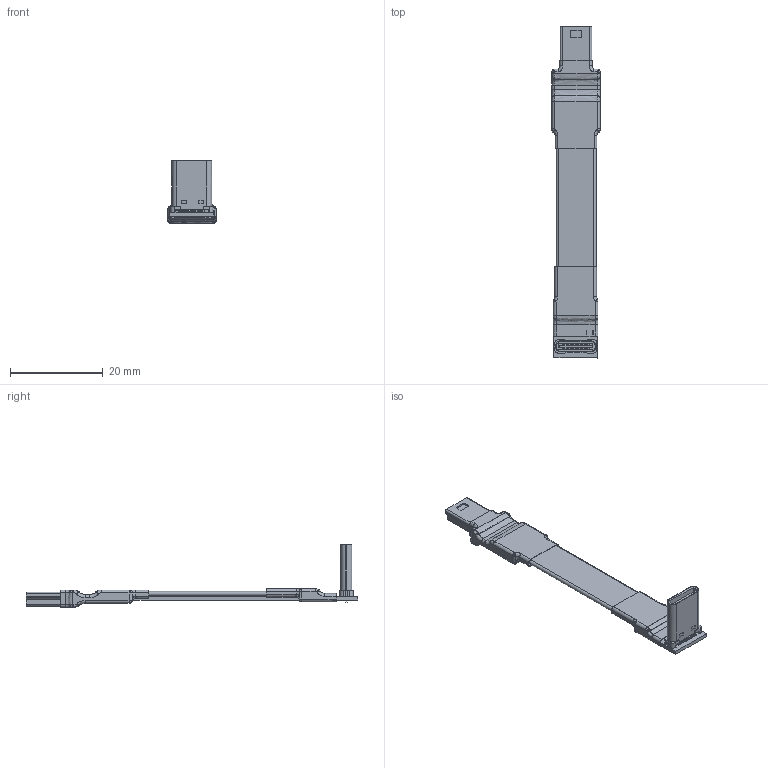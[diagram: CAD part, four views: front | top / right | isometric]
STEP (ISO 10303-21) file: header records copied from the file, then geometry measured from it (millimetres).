
FILE_DESCRIPTION(('Open CASCADE Model'),'2;1');
FILE_NAME('Open CASCADE Shape Model','2026-01-04T16:42:09',('Author'),( 'Open CASCADE'),'Open CASCADE STEP processor 7.5','Open CASCADE 7.5' ,'Unknown');
FILE_SCHEMA(('AUTOMOTIVE_DESIGN { 1 0 10303 214 1 1 1 1 }'));
Length unit declared in the file: millimetre
Products named in the file (71): PCB; Board; Open CASCADE STEP translator 7.5 6.1.1; Designator28; MINI USB B M 5Pһͥʽ¶̗ӽżӳ¤ǰϥº􏣀j; MINI USB B M 5Pһͥʽ¶̗ӽżӳ¤ǰϥº􏣀=؆; MINI USB B M 5Pһͥʽ¶̗ӽżӳ¤ǰϥº􏣀󁪆; MINI USB B M 5Pһͥʽ¶̗ӽżӳ¤ǰϥº􏣀Ƀ,; Open CASCADE STEP translator 7.5 6.3; 0603_RES; Capsule; Encapsulation; TopCover; Open CASCADE STEP translator 7.5 6.4; C0603_060; Open CASCADE STEP translator 7.5 6.5; typec new 20211025; Free-Models; UN1 13P ƽֱɈ̵¹ڠ20260104_RGB4408131; USB 13P bʽɈ̵¹ڠ20251229_RGB4408131; cable13-US2A
Assembly tree (71 placements, depth 4):
  PCB
    Board
      Open CASCADE STEP translator 7.5 6.1.1
    Designator28
      MINI USB B M 5Pһͥʽ¶̗ӽżӳ¤ǰϥº􏣀j
      MINI USB B M 5Pһͥʽ¶̗ӽżӳ¤ǰϥº􏣀=؆
      MINI USB B M 5Pһͥʽ¶̗ӽżӳ¤ǰϥº􏣀󁪆
      MINI USB B M 5Pһͥʽ¶̗ӽżӳ¤ǰϥº􏣀Ƀ,
    Open CASCADE STEP translator 7.5 6.3
      0603_RES
        Capsule
        Encapsulation  x2
        TopCover
    Open CASCADE STEP translator 7.5 6.4
      C0603_060
      C0603_060
      C0603_060
    Open CASCADE STEP translator 7.5 6.5
      typec new 20211025
      typec new 20211025
      typec new 20211025
      typec new 20211025
      typec new 20211025
      typec new 20211025
      typec new 20211025
      typec new 20211025
      typec new 20211025
      typec new 20211025
      typec new 20211025
      typec new 20211025
      typec new 20211025
      typec new 20211025
      typec new 20211025
      typec new 20211025
      typec new 20211025
      typec new 20211025
      typec new 20211025
      typec new 20211025
      typec new 20211025
      typec new 20211025
      typec new 20211025
    Free-Models
      UN1 13P ƽֱɈ̵¹ڠ20260104_RGB4408131
      USB 13P bʽɈ̵¹ڠ20251229_RGB4408131
      cable13-US2A
      cable13-US2A
      cable13-US2A
      cable13-US2A
      cable13-US2A
      cable13-US2A
      cable13-US2A
      cable13-US2A
      cable13-US2A
      cable13-US2A
      cable13-US2A
      cable13-US2A
      cable13-US2A
      cable13-US2A
      cable13-US2A
      cable13-US2A
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Bounding box: 10.4 x 71.51 x 13.48 mm (x, y, z)
Volume: 734.2 mm3; surface area: 4951.9 mm2
Topology: 63 solids, 64 shells, 1221 faces, 2952 edges, 1845 vertices
Faces by surface type: plane 722, cylinder 247, bspline 184, offset 34, torus 26, sphere 8
Full cylindrical faces by diameter (mm): 0.4 x65, 0.55 x26, 0.6 x2, 0.75 x2
Entity records: 77332 total; most frequent: CARTESIAN_POINT 42791, ORIENTED_EDGE 5740, DIRECTION 4803, EDGE_CURVE 2870, LINE 1831, VECTOR 1831, VERTEX_POINT 1825, AXIS2_PLACEMENT_3D 1486
